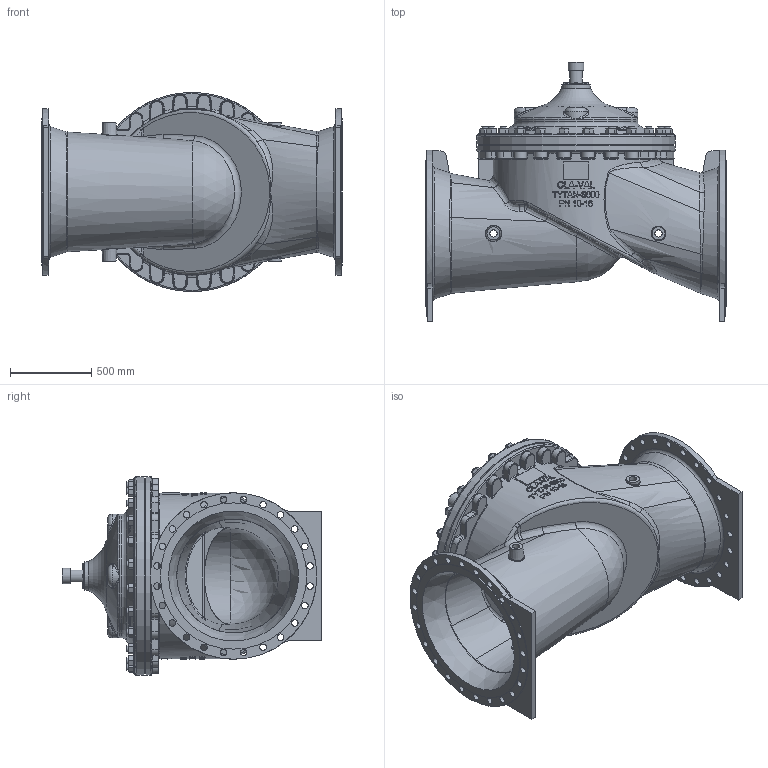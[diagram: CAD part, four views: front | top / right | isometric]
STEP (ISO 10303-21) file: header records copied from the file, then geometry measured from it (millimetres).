
FILE_DESCRIPTION(/* description */ (''),/* implementation_level */ '2;1');
FILE_NAME(/* name */ 'G:\Doc_Liberes\SymbolesCAD\Modeles_3D\FichierSTP\VanneDeBase\TytanS800-16RF.stp',/* time_stamp */ '2023-08-18T08:45:50+02:00',/* author */ ('theo'),/* organization */ (''),/* preprocessor_version */ 'ST-DEVELOPER v18.1',/* originating_system */ 'Autodesk Inventor 2022',/* authorisation */ '');
FILE_SCHEMA (('AUTOMOTIVE_DESIGN { 1 0 10303 214 3 1 1 }'));
Length unit declared in the file: millimetre
Products named in the file (1): TytanS800-16_Simplifier_1
Bounding box: 1850 x 1597.8 x 1225 mm (x, y, z)
Volume: 247468196.5 mm3; surface area: 17492046.3 mm2
Topology: 1 solids, 1 shells, 3813 faces, 10147 edges, 6505 vertices
Faces by surface type: plane 1512, cone 1138, bspline 556, cylinder 442, torus 161, sphere 4
Full cylindrical faces by diameter (mm): 19.05 x8, 25.4 x8, 26.21 x4, 38.1 x48, 40 x48, 42 x24, 44.845 x4, 50 x24, 75 x1, 76.2 x24, 80 x1, 91 x1, 95 x1, 105 x1, 176 x1, 596 x1, 673 x1, 705 x2, 762 x1, 901 x2, 1025 x2, 1042 x1, 1068 x1, 1200 x1, 1203.1 x1, 1225 x2
Entity records: 194256 total; most frequent: CARTESIAN_POINT 106155, ORIENTED_EDGE 20244, DIRECTION 16572, EDGE_CURVE 10122, AXIS2_PLACEMENT_3D 7264, VERTEX_POINT 6506, EDGE_LOOP 4170, CIRCLE 3975
